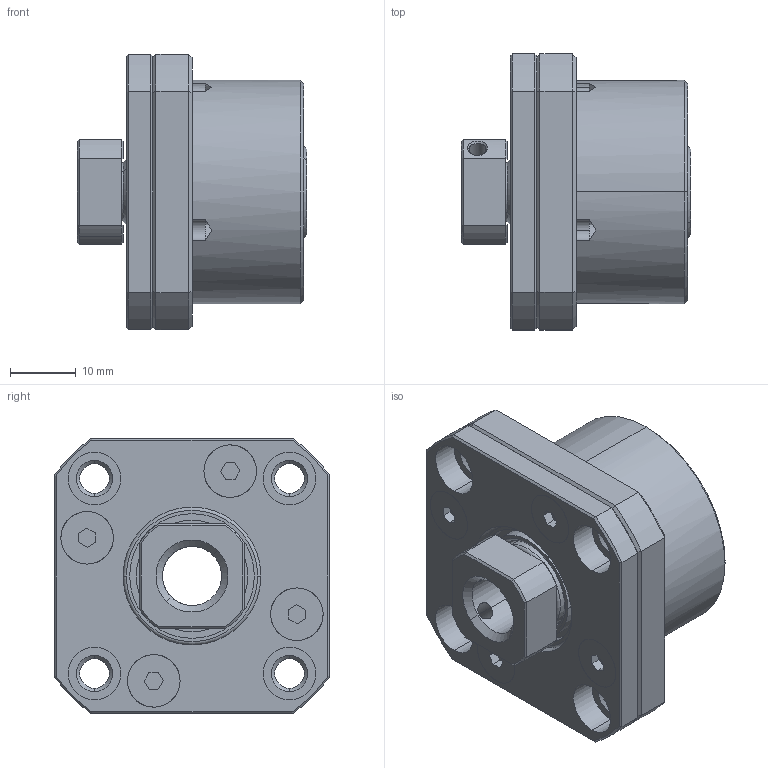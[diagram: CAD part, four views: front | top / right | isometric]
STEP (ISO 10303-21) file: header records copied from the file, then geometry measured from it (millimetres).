
FILE_DESCRIPTION (( 'STEP AP203' ), '1' );
FILE_NAME ('FK10²Õ¦XA.STEP', '2021-09-29T01:27:35', ( '' ), ( '' ), 'SwSTEP 2.0', 'SolidWorks 2018', '' );
FILE_SCHEMA (( 'CONFIG_CONTROL_DESIGN' ));
Length unit declared in the file: millimetre
Products named in the file (1): FK10組合A
Bounding box: 35 x 42 x 42 mm (x, y, z)
Surface area: 12722.3 mm2 (no closed solid volume)
Topology: 0 solids, 18 shells, 229 faces, 617 edges, 407 vertices
Faces by surface type: plane 84, cylinder 71, cone 54, torus 16, bspline 4
Entity records: 7849 total; most frequent: CARTESIAN_POINT 1959, DIRECTION 1278, ORIENTED_EDGE 1097, EDGE_CURVE 617, AXIS2_PLACEMENT_3D 520, VERTEX_POINT 407, CIRCLE 294, EDGE_LOOP 280
